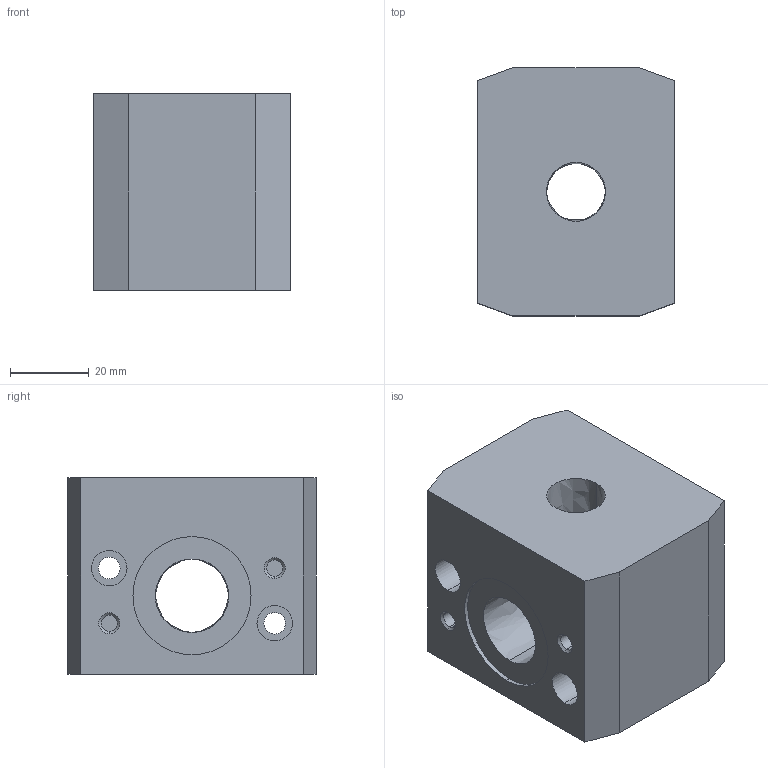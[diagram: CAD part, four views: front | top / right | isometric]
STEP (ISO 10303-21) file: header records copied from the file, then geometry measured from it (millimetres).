
FILE_DESCRIPTION((''),'2;1');
FILE_NAME('I:\DOC-EDP\Lib-3d\FRL\17340.stp','2003-06-16T15:01:10',('maffial1'),(''),'Autodesk Inventor 7','Autodesk Inventor 7','');
FILE_SCHEMA(('AUTOMOTIVE_DESIGN { 1 0 10303 214 1 1 1 1 }'));
Length unit declared in the file: millimetre
Products named in the file (1): 17340
Bounding box: 50 x 63 x 50 mm (x, y, z)
Volume: 129385 mm3; surface area: 23134.8 mm2
Topology: 1 solids, 1 shells, 58 faces, 134 edges, 86 vertices
Faces by surface type: bspline 29, plane 15, cylinder 10, cone 4
Entity records: 2091 total; most frequent: CARTESIAN_POINT 788, ORIENTED_EDGE 268, DIRECTION 252, EDGE_CURVE 134, AXIS2_PLACEMENT_3D 94, VERTEX_POINT 86, EDGE_LOOP 76, VECTOR 64
